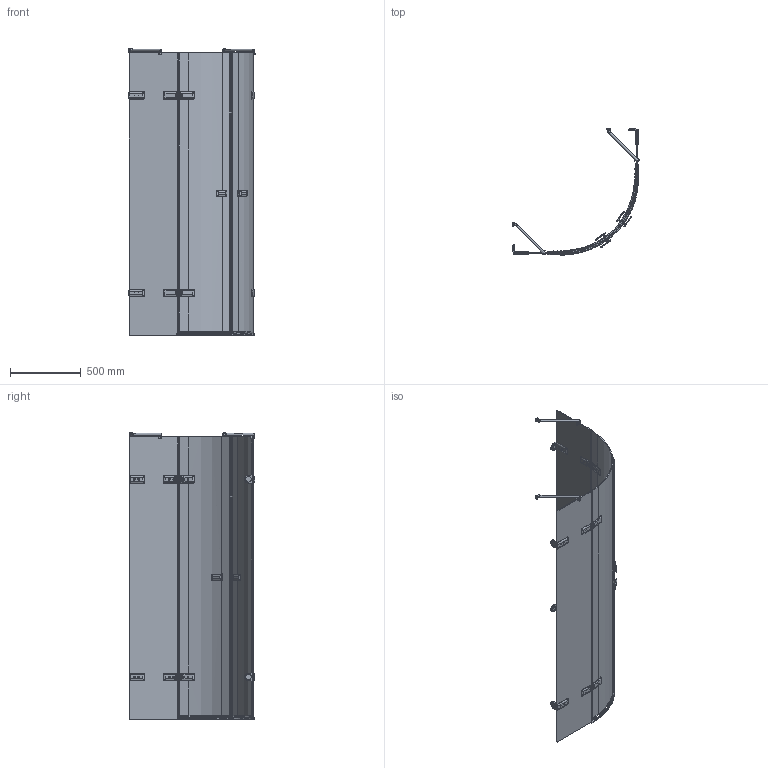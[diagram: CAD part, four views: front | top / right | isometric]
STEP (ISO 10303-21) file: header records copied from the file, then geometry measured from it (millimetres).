
FILE_DESCRIPTION(/* description */ (''),/* implementation_level */ '2;1');
FILE_NAME(/* name */ 'D:\55\TREND ROUND GK-864\TREND ROUND GK-864-3D.stp',/* time_stamp */ '2020-12-08T19:06:19+03:00',/* author */ ('User'),/* organization */ (''),/* preprocessor_version */ 'ST-DEVELOPER v15.2',/* originating_system */ 'Autodesk Inventor 2014',/* authorisation */ '');
FILE_SCHEMA (('AUTOMOTIVE_DESIGN { 1 0 10303 214 3 1 1 }'));
Length unit declared in the file: millimetre
Products named in the file (1): TREND ROUND GK-864-3D
Bounding box: 893 x 890.49 x 2031.5 mm (x, y, z)
Volume: 22637420.4 mm3; surface area: 6692834.7 mm2
Topology: 8 solids, 46 shells, 2748 faces, 7288 edges, 4568 vertices
Faces by surface type: plane 1414, cylinder 790, bspline 310, torus 112, cone 92, sphere 30
Full cylindrical faces by diameter (mm): 4 x4, 4.134 x4, 4.917 x8, 5 x12, 5.2 x4, 6 x10, 7.2 x8, 8 x2, 9 x16, 12 x2, 13 x16, 15 x2, 16 x12, 20 x4, 26 x2, 28 x4, 28.5 x4, 40 x4
Entity records: 121761 total; most frequent: CARTESIAN_POINT 53326, ORIENTED_EDGE 13762, DIRECTION 13293, EDGE_CURVE 6876, AXIS2_PLACEMENT_3D 4768, VERTEX_POINT 4460, LINE 3757, VECTOR 3757
